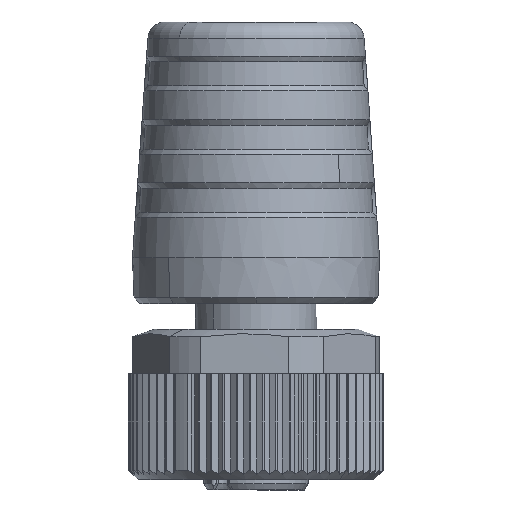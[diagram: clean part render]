
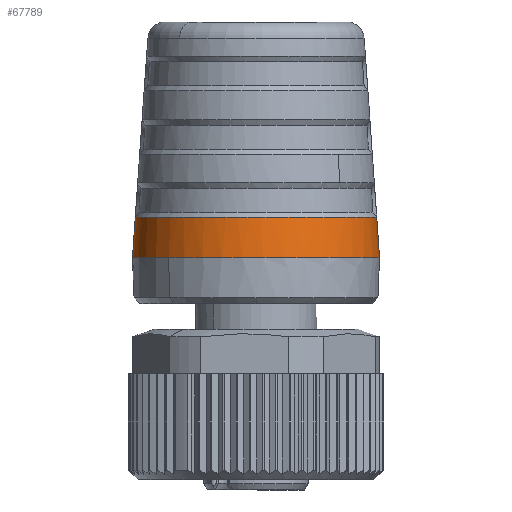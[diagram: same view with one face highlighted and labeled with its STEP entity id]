
A CAD part, front view. The second image highlights one B-rep face of the part: STEP entity #67789.
In plain terms, the highlighted conical face has half-angle 4 degrees and reference radius 9.675 mm.
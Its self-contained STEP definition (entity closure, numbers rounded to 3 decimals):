
#1037 = EDGE_CURVE ( 'NONE', #34016, #8844, #24924, .T. ) ;
#1123 = CARTESIAN_POINT ( 'NONE',  ( 17.886, -11.519, 19.4 ) ) ;
#3896 = DIRECTION ( 'NONE',  ( 0., 0., 1. ) ) ;
#4673 = CARTESIAN_POINT ( 'NONE',  ( 26.627, -20.974, 22.55 ) ) ;
#4990 = VERTEX_POINT ( 'NONE', #19381 ) ;
#5052 = CARTESIAN_POINT ( 'NONE',  ( 36.34, -15.152, 22.55 ) ) ;
#5798 = CARTESIAN_POINT ( 'NONE',  ( 20.001, -17.33, 22.55 ) ) ;
#6181 = CARTESIAN_POINT ( 'NONE',  ( 35.938, -16.001, 22.55 ) ) ;
#6361 = VERTEX_POINT ( 'NONE', #7863 ) ;
#6572 = FACE_OUTER_BOUND ( 'NONE', #75478, .T. ) ;
#6774 = B_SPLINE_CURVE_WITH_KNOTS ( 'NONE', 3,
 ( #59273, #5798, #21933, #53403, #9058, #57077 ),
 .UNSPECIFIED., .F., .F.,
 ( 4, 2, 4 ),
 ( 0., 0.5, 1. ),
 .UNSPECIFIED. ) ;
#7863 = CARTESIAN_POINT ( 'NONE',  ( 20.876, -18.205, 22.55 ) ) ;
#8844 = VERTEX_POINT ( 'NONE', #53965 ) ;
#9058 = CARTESIAN_POINT ( 'NONE',  ( 18.107, -12.757, 22.55 ) ) ;
#12036 = CARTESIAN_POINT ( 'NONE',  ( 37.016, -12.448, 22.55 ) ) ;
#13584 = DIRECTION ( 'NONE',  ( 0.07, 0., -0.998 ) ) ;
#13954 = DIRECTION ( 'NONE',  ( 0., 0., -1. ) ) ;
#14197 = AXIS2_PLACEMENT_3D ( 'NONE', #67439, #13954, #42853 ) ;
#16508 = VERTEX_POINT ( 'NONE', #60424 ) ;
#17511 = CARTESIAN_POINT ( 'NONE',  ( 29.412, -20.838, 22.55 ) ) ;
#17648 = AXIS2_PLACEMENT_3D ( 'NONE', #40298, #23116, #28216 ) ;
#19381 = CARTESIAN_POINT ( 'NONE',  ( 17.886, -11.519, 19.4 ) ) ;
#21009 = ORIENTED_EDGE ( 'NONE', *, *, #30513, .T. ) ;
#21933 = CARTESIAN_POINT ( 'NONE',  ( 19.3, -16.281, 22.55 ) ) ;
#22612 = CARTESIAN_POINT ( 'NONE',  ( 37.016, -11.52, 22.55 ) ) ;
#23116 = DIRECTION ( 'NONE',  ( 0., 0., 1. ) ) ;
#23903 = CARTESIAN_POINT ( 'NONE',  ( 37.016, -11.52, 22.55 ) ) ;
#24134 = CARTESIAN_POINT ( 'NONE',  ( 34.907, -17.544, 22.55 ) ) ;
#24786 = EDGE_CURVE ( 'NONE', #6361, #16508, #6774, .T. ) ;
#24924 = LINE ( 'NONE', #67075, #30270 ) ;
#25035 = ORIENTED_EDGE ( 'NONE', *, *, #67218, .T. ) ;
#25404 = CONICAL_SURFACE ( 'NONE', #14197, 9.675, 0.07 ) ;
#25657 = ORIENTED_EDGE ( 'NONE', *, *, #1037, .F. ) ;
#28216 = DIRECTION ( 'NONE',  ( 0., -1., 0. ) ) ;
#28976 = CIRCLE ( 'NONE', #66368, 9.675 ) ;
#29229 = CARTESIAN_POINT ( 'NONE',  ( 24.807, -20.612, 22.55 ) ) ;
#29984 = CARTESIAN_POINT ( 'NONE',  ( 30.322, -20.61, 22.55 ) ) ;
#30270 = VECTOR ( 'NONE', #13584, 1000. ) ;
#30513 = EDGE_CURVE ( 'NONE', #67530, #8844, #31352, .T. ) ;
#31352 = CIRCLE ( 'NONE', #17648, 9.675 ) ;
#33529 = CARTESIAN_POINT ( 'NONE',  ( 27.561, -11.52, 19.4 ) ) ;
#34016 = VERTEX_POINT ( 'NONE', #23903 ) ;
#35369 = VECTOR ( 'NONE', #66680, 1000. ) ;
#35454 = CARTESIAN_POINT ( 'NONE',  ( 32.842, -19.417, 22.55 ) ) ;
#35842 = CARTESIAN_POINT ( 'NONE',  ( 23.923, -20.295, 22.55 ) ) ;
#37765 = LINE ( 'NONE', #1123, #35369 ) ;
#40298 = CARTESIAN_POINT ( 'NONE',  ( 27.561, -11.52, 19.4 ) ) ;
#41364 = B_SPLINE_CURVE_WITH_KNOTS ( 'NONE', 3,
 ( #22612, #12036, #65513, #5052, #6181, #24134, #53801, #35454, #63993, #29984, #17511, #47174, #4673, #29229, #35842, #46798, #41696, #64374 ),
 .UNSPECIFIED., .F., .F.,
 ( 4, 2, 2, 2, 2, 2, 2, 2, 4 ),
 ( 0., 0.125, 0.25, 0.375, 0.5, 0.625, 0.75, 0.875, 1. ),
 .UNSPECIFIED. ) ;
#41696 = CARTESIAN_POINT ( 'NONE',  ( 21.532, -18.861, 22.55 ) ) ;
#42853 = DIRECTION ( 'NONE',  ( 0.707, 0.707, 0. ) ) ;
#46798 = CARTESIAN_POINT ( 'NONE',  ( 22.286, -19.42, 22.55 ) ) ;
#47174 = CARTESIAN_POINT ( 'NONE',  ( 27.564, -21.02, 22.55 ) ) ;
#53403 = CARTESIAN_POINT ( 'NONE',  ( 18.353, -13.994, 22.55 ) ) ;
#53801 = CARTESIAN_POINT ( 'NONE',  ( 34.277, -18.239, 22.55 ) ) ;
#53965 = CARTESIAN_POINT ( 'NONE',  ( 37.236, -11.52, 19.4 ) ) ;
#57077 = CARTESIAN_POINT ( 'NONE',  ( 18.107, -11.52, 22.55 ) ) ;
#59273 = CARTESIAN_POINT ( 'NONE',  ( 20.876, -18.205, 22.55 ) ) ;
#60081 = EDGE_CURVE ( 'NONE', #4990, #67530, #28976, .T. ) ;
#60424 = CARTESIAN_POINT ( 'NONE',  ( 18.107, -11.52, 22.55 ) ) ;
#63360 = ORIENTED_EDGE ( 'NONE', *, *, #67802, .F. ) ;
#63993 = CARTESIAN_POINT ( 'NONE',  ( 32.037, -19.899, 22.55 ) ) ;
#64374 = CARTESIAN_POINT ( 'NONE',  ( 20.876, -18.205, 22.55 ) ) ;
#65513 = CARTESIAN_POINT ( 'NONE',  ( 36.878, -13.376, 22.55 ) ) ;
#66368 = AXIS2_PLACEMENT_3D ( 'NONE', #33529, #3896, #74548 ) ;
#66680 = DIRECTION ( 'NONE',  ( 0.07, 0., 0.998 ) ) ;
#67075 = CARTESIAN_POINT ( 'NONE',  ( 37.016, -11.52, 22.55 ) ) ;
#67218 = EDGE_CURVE ( 'NONE', #34016, #6361, #41364, .T. ) ;
#67439 = CARTESIAN_POINT ( 'NONE',  ( 27.561, -11.52, 19.4 ) ) ;
#67530 = VERTEX_POINT ( 'NONE', #71766 ) ;
#67789 = ADVANCED_FACE ( 'NONE', ( #6572 ), #25404, .T. ) ;
#67802 = EDGE_CURVE ( 'NONE', #4990, #16508, #37765, .T. ) ;
#71766 = CARTESIAN_POINT ( 'NONE',  ( 20.72, -18.361, 19.4 ) ) ;
#74036 = ORIENTED_EDGE ( 'NONE', *, *, #24786, .T. ) ;
#74548 = DIRECTION ( 'NONE',  ( 0., -1., 0. ) ) ;
#75274 = ORIENTED_EDGE ( 'NONE', *, *, #60081, .T. ) ;
#75478 = EDGE_LOOP ( 'NONE', ( #25035, #74036, #63360, #75274, #21009, #25657 ) ) ;
